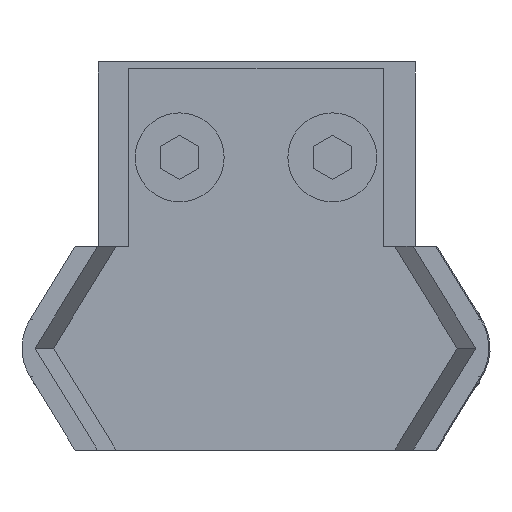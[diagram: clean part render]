
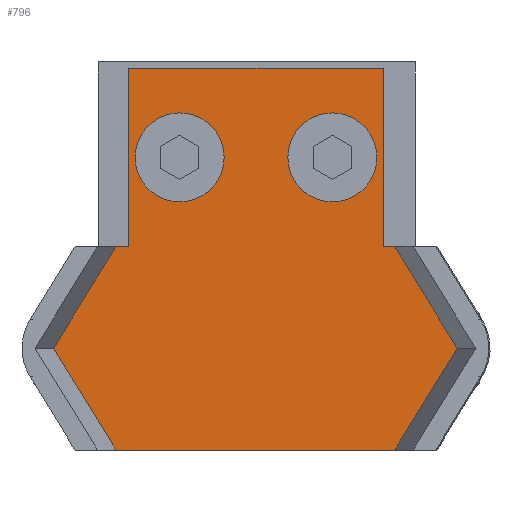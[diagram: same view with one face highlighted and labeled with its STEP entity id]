
A CAD part, left-side view. The second image highlights one B-rep face of the part: STEP entity #796.
In plain terms, the highlighted planar face has unit normal (-1, 0, 0).
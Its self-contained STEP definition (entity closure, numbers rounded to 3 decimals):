
#7 = VECTOR ( 'NONE', #5620, 1000. ) ;
#52 = DIRECTION ( 'NONE',  ( -1., 0., 0. ) ) ;
#110 = CARTESIAN_POINT ( 'NONE',  ( 4., 7., 9.5 ) ) ;
#131 = CARTESIAN_POINT ( 'NONE',  ( 4., 7., 2.5 ) ) ;
#267 = VERTEX_POINT ( 'NONE', #5954 ) ;
#311 = VERTEX_POINT ( 'NONE', #3351 ) ;
#367 = AXIS2_PLACEMENT_3D ( 'NONE', #5023, #4541, #5515 ) ;
#491 = VERTEX_POINT ( 'NONE', #3977 ) ;
#664 = EDGE_CURVE ( 'NONE', #4619, #5402, #3477, .T. ) ;
#796 = ADVANCED_FACE ( 'NONE', ( #2791, #3092, #3254 ), #3625, .F. ) ;
#824 = DIRECTION ( 'NONE',  ( 0., 0., 1. ) ) ;
#905 = CARTESIAN_POINT ( 'NONE',  ( 4., 7., 6. ) ) ;
#994 = ORIENTED_EDGE ( 'NONE', *, *, #1517, .T. ) ;
#1029 = CARTESIAN_POINT ( 'NONE',  ( 4., 0., -10.999 ) ) ;
#1059 = EDGE_CURVE ( 'NONE', #491, #311, #2705, .T. ) ;
#1121 = CARTESIAN_POINT ( 'NONE',  ( 4., 0., 0. ) ) ;
#1172 = VERTEX_POINT ( 'NONE', #5571 ) ;
#1288 = CARTESIAN_POINT ( 'NONE',  ( 4., -8., -15.914 ) ) ;
#1305 = EDGE_LOOP ( 'NONE', ( #5800, #5702, #6508, #994, #2118, #2361, #6120, #2508, #1863, #2128 ) ) ;
#1382 = EDGE_CURVE ( 'NONE', #267, #6007, #4914, .T. ) ;
#1452 = CARTESIAN_POINT ( 'NONE',  ( 4., 0., 10. ) ) ;
#1517 = EDGE_CURVE ( 'NONE', #2404, #1172, #5368, .T. ) ;
#1657 = DIRECTION ( 'NONE',  ( 0., 0.852, 0.523 ) ) ;
#1820 = EDGE_CURVE ( 'NONE', #267, #4773, #6367, .T. ) ;
#1846 = EDGE_LOOP ( 'NONE', ( #4220, #4976 ) ) ;
#1863 = ORIENTED_EDGE ( 'NONE', *, *, #1382, .T. ) ;
#1867 = CARTESIAN_POINT ( 'NONE',  ( 4., 0., 10. ) ) ;
#1935 = AXIS2_PLACEMENT_3D ( 'NONE', #905, #2884, #5450 ) ;
#2118 = ORIENTED_EDGE ( 'NONE', *, *, #2547, .T. ) ;
#2128 = ORIENTED_EDGE ( 'NONE', *, *, #3727, .F. ) ;
#2182 = CARTESIAN_POINT ( 'NONE',  ( 4., 0., 10.899 ) ) ;
#2228 = CARTESIAN_POINT ( 'NONE',  ( 4., 7., -6. ) ) ;
#2242 = CARTESIAN_POINT ( 'NONE',  ( 4., -16., -10.999 ) ) ;
#2287 = VECTOR ( 'NONE', #6340, 1000. ) ;
#2338 = CARTESIAN_POINT ( 'NONE',  ( 4., 0., -10. ) ) ;
#2361 = ORIENTED_EDGE ( 'NONE', *, *, #2708, .F. ) ;
#2404 = VERTEX_POINT ( 'NONE', #6219 ) ;
#2508 = ORIENTED_EDGE ( 'NONE', *, *, #1820, .F. ) ;
#2521 = CARTESIAN_POINT ( 'NONE',  ( 4., 14., 10. ) ) ;
#2547 = EDGE_CURVE ( 'NONE', #1172, #4322, #4975, .T. ) ;
#2619 = LINE ( 'NONE', #3558, #4113 ) ;
#2676 = EDGE_LOOP ( 'NONE', ( #4303, #6247 ) ) ;
#2705 = LINE ( 'NONE', #2182, #7 ) ;
#2708 = EDGE_CURVE ( 'NONE', #4469, #4322, #6512, .T. ) ;
#2711 = VERTEX_POINT ( 'NONE', #1452 ) ;
#2733 = EDGE_CURVE ( 'NONE', #5402, #4619, #3614, .T. ) ;
#2791 = FACE_OUTER_BOUND ( 'NONE', #1305, .T. ) ;
#2846 = EDGE_CURVE ( 'NONE', #4000, #5952, #5600, .T. ) ;
#2872 = CARTESIAN_POINT ( 'NONE',  ( 4., -16., 20. ) ) ;
#2884 = DIRECTION ( 'NONE',  ( -1., 0., 0. ) ) ;
#2924 = CARTESIAN_POINT ( 'NONE',  ( 4., 0., 0. ) ) ;
#2975 = CARTESIAN_POINT ( 'NONE',  ( 4., 7., -2.5 ) ) ;
#3092 = FACE_BOUND ( 'NONE', #1846, .T. ) ;
#3122 = CARTESIAN_POINT ( 'NONE',  ( 4., 7., -9.5 ) ) ;
#3173 = LINE ( 'NONE', #3703, #3479 ) ;
#3236 = CIRCLE ( 'NONE', #3837, 3.5 ) ;
#3254 = FACE_BOUND ( 'NONE', #2676, .T. ) ;
#3351 = CARTESIAN_POINT ( 'NONE',  ( 4., -8., 15.814 ) ) ;
#3477 = CIRCLE ( 'NONE', #6063, 3.5 ) ;
#3479 = VECTOR ( 'NONE', #1657, 1000. ) ;
#3533 = CARTESIAN_POINT ( 'NONE',  ( 4., -16., 10.899 ) ) ;
#3558 = CARTESIAN_POINT ( 'NONE',  ( 4., -8., 15.814 ) ) ;
#3614 = CIRCLE ( 'NONE', #1935, 3.5 ) ;
#3625 = PLANE ( 'NONE',  #6187 ) ;
#3703 = CARTESIAN_POINT ( 'NONE',  ( 4., -8., -15.914 ) ) ;
#3720 = VECTOR ( 'NONE', #5341, 1000. ) ;
#3727 = EDGE_CURVE ( 'NONE', #311, #6007, #2619, .T. ) ;
#3804 = EDGE_CURVE ( 'NONE', #5952, #4000, #3236, .T. ) ;
#3805 = VECTOR ( 'NONE', #4095, 1000. ) ;
#3837 = AXIS2_PLACEMENT_3D ( 'NONE', #2228, #4255, #5264 ) ;
#3977 = CARTESIAN_POINT ( 'NONE',  ( 4., 0., 10.899 ) ) ;
#4000 = VERTEX_POINT ( 'NONE', #3122 ) ;
#4011 = CARTESIAN_POINT ( 'NONE',  ( 4., 0., -10. ) ) ;
#4064 = DIRECTION ( 'NONE',  ( 0., 0., -1. ) ) ;
#4095 = DIRECTION ( 'NONE',  ( 0., 1., 0. ) ) ;
#4096 = DIRECTION ( 'NONE',  ( 0., -0.852, -0.523 ) ) ;
#4113 = VECTOR ( 'NONE', #4096, 1000. ) ;
#4134 = LINE ( 'NONE', #2521, #3805 ) ;
#4220 = ORIENTED_EDGE ( 'NONE', *, *, #2846, .F. ) ;
#4255 = DIRECTION ( 'NONE',  ( -1., 0., 0. ) ) ;
#4303 = ORIENTED_EDGE ( 'NONE', *, *, #2733, .F. ) ;
#4322 = VERTEX_POINT ( 'NONE', #4011 ) ;
#4433 = VECTOR ( 'NONE', #6472, 1000. ) ;
#4469 = VERTEX_POINT ( 'NONE', #1029 ) ;
#4516 = VECTOR ( 'NONE', #824, 1000. ) ;
#4541 = DIRECTION ( 'NONE',  ( -1., 0., 0. ) ) ;
#4619 = VERTEX_POINT ( 'NONE', #110 ) ;
#4773 = VERTEX_POINT ( 'NONE', #1288 ) ;
#4914 = LINE ( 'NONE', #2872, #4516 ) ;
#4975 = LINE ( 'NONE', #2338, #2287 ) ;
#4976 = ORIENTED_EDGE ( 'NONE', *, *, #3804, .F. ) ;
#5023 = CARTESIAN_POINT ( 'NONE',  ( 4., 7., -6. ) ) ;
#5053 = CARTESIAN_POINT ( 'NONE',  ( 4., 7., 6. ) ) ;
#5264 = DIRECTION ( 'NONE',  ( 0., 0., -1. ) ) ;
#5341 = DIRECTION ( 'NONE',  ( 0., 0., -1. ) ) ;
#5368 = LINE ( 'NONE', #5953, #4433 ) ;
#5402 = VERTEX_POINT ( 'NONE', #131 ) ;
#5440 = EDGE_CURVE ( 'NONE', #4773, #4469, #3173, .T. ) ;
#5450 = DIRECTION ( 'NONE',  ( 0., 0., -1. ) ) ;
#5515 = DIRECTION ( 'NONE',  ( 0., 0., -1. ) ) ;
#5571 = CARTESIAN_POINT ( 'NONE',  ( 4., 14., -10. ) ) ;
#5600 = CIRCLE ( 'NONE', #367, 3.5 ) ;
#5620 = DIRECTION ( 'NONE',  ( 0., -0.852, 0.523 ) ) ;
#5702 = ORIENTED_EDGE ( 'NONE', *, *, #6476, .T. ) ;
#5718 = DIRECTION ( 'NONE',  ( 1., 0., 0. ) ) ;
#5800 = ORIENTED_EDGE ( 'NONE', *, *, #1059, .F. ) ;
#5820 = DIRECTION ( 'NONE',  ( 0., 0.852, -0.523 ) ) ;
#5952 = VERTEX_POINT ( 'NONE', #2975 ) ;
#5953 = CARTESIAN_POINT ( 'NONE',  ( 4., 14., -10. ) ) ;
#5954 = CARTESIAN_POINT ( 'NONE',  ( 4., -16., -10.999 ) ) ;
#6007 = VERTEX_POINT ( 'NONE', #3533 ) ;
#6020 = EDGE_CURVE ( 'NONE', #2711, #2404, #4134, .T. ) ;
#6063 = AXIS2_PLACEMENT_3D ( 'NONE', #5053, #52, #4064 ) ;
#6120 = ORIENTED_EDGE ( 'NONE', *, *, #5440, .F. ) ;
#6138 = VECTOR ( 'NONE', #5820, 1000. ) ;
#6149 = DIRECTION ( 'NONE',  ( 0., 0., -1. ) ) ;
#6187 = AXIS2_PLACEMENT_3D ( 'NONE', #1121, #5718, #6149 ) ;
#6219 = CARTESIAN_POINT ( 'NONE',  ( 4., 14., 10. ) ) ;
#6247 = ORIENTED_EDGE ( 'NONE', *, *, #664, .F. ) ;
#6285 = VECTOR ( 'NONE', #6466, 1000. ) ;
#6340 = DIRECTION ( 'NONE',  ( 0., -1., 0. ) ) ;
#6367 = LINE ( 'NONE', #2242, #6138 ) ;
#6380 = LINE ( 'NONE', #1867, #3720 ) ;
#6466 = DIRECTION ( 'NONE',  ( 0., 0., 1. ) ) ;
#6472 = DIRECTION ( 'NONE',  ( 0., 0., -1. ) ) ;
#6476 = EDGE_CURVE ( 'NONE', #491, #2711, #6380, .T. ) ;
#6508 = ORIENTED_EDGE ( 'NONE', *, *, #6020, .T. ) ;
#6512 = LINE ( 'NONE', #2924, #6285 ) ;
